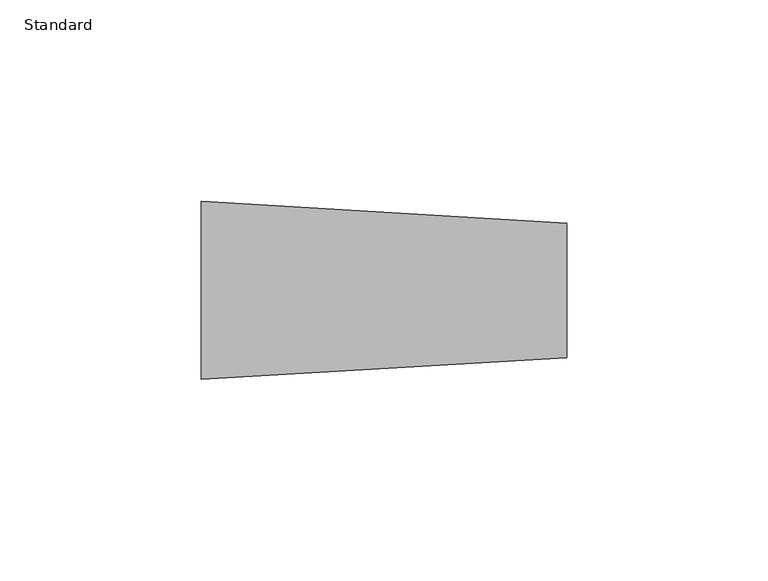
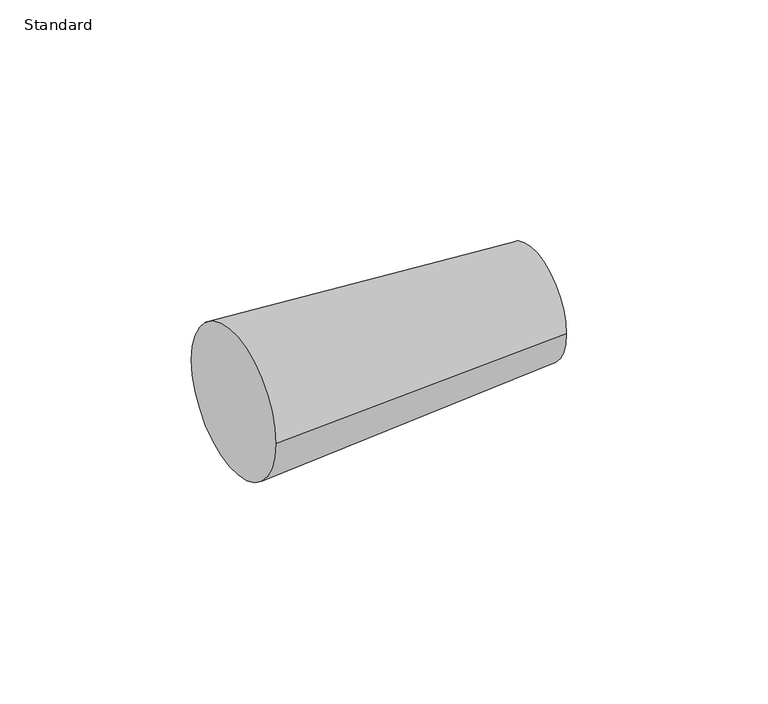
"""IFC4 building model written with IfcOpenShell, lengths in millimetres: pipe fitting geometry, Transformation - Générique : Standard."""

from ifc_helpers import new_model, si_unit, frame, origin, place, context, project, spatial, polyline, circle_curve, source, transform, mapped, element, save
from ifc_brep_helpers import plane_surface, revolved_surface, advanced_brep


def standard_a8f5f238(model_context):
    return source(origin(), model_context, "Body", "AdvancedBrep", [
        advanced_brep(
        [(90.6653125, 16.7, 0.0), (90.6653125, -16.7, 0.0), (0.0, 22.0589844, 0.0), (0.0, -22.0589844, 0.0)],
        [
            (0, 1, circle_curve(frame((90.6653125, 0.0, 0.0), z_axis=(1.0, 0.0, 0.0), x_axis=(0.0, -1.0, 0.0)), 16.7)),
            (1, 0, circle_curve(frame((90.6653125, 0.0, 0.0), z_axis=(1.0, 0.0, 0.0), x_axis=(0.0, 1.0, 0.0)), 16.7)),
            (2, 3, circle_curve(frame((0.0, 0.0, 0.0), z_axis=(-1.0, 0.0, 0.0), x_axis=(0.0, 1.0, 0.0)), 22.0589844)),
            (3, 2, circle_curve(frame((0.0, 0.0, 0.0), z_axis=(-1.0, 0.0, 0.0), x_axis=(0.0, -1.0, 0.0)), 22.0589844)),
            (2, 0),
            (1, 3),
        ],
        [
            plane_surface(frame((90.6653125, 0.0, 0.0), z_axis=(1.0, 0.0, 0.0), x_axis=(0.0, 0.0, -1.0))),
            plane_surface(frame((0.0, 0.0, 0.0), z_axis=(-1.0, 0.0, 0.0), x_axis=(0.0, 0.0, -1.0))),
            revolved_surface(polyline([(90.66531250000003, 16.700000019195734, 0.0), (0.0, 22.0589844, 0.0)]), (373.2021913, 0.0, 0.0), (-1.0, 0.0, 0.0)),
            revolved_surface(polyline([(90.66531250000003, -16.700000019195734, 0.0), (0.0, -22.0589844, 0.0)]), (373.2021913, 0.0, 0.0), (-1.0, 0.0, 0.0)),
        ],
        [
            (0, [[1, 2]]),
            (1, [[3, 4]]),
            (2, [[5, -2, 6, -3]]),
            (3, [[-6, -1, -5, -4]]),
        ],
    ),
    ])


if __name__ == "__main__":
    model = new_model("IFC4")
    model_context = context("Model", 3, world=origin())
    ifc_project = project(units=[si_unit("LENGTHUNIT", "METRE", prefix="MILLI")], contexts=[model_context])
    site = spatial("IfcSite", under=ifc_project)
    building = spatial("IfcBuilding", under=site)
    placement = place(None, origin())
    standard_shape = standard_a8f5f238(model_context)
    element("IfcPipeFitting", 1, ObjectType="Transformation - Générique : Standard", at=placement, inside=building, context=model_context, shape_type="MappedRepresentation", body=[
        mapped(standard_shape, transform((0.0, 0.0, 0.0), x_axis=(1.0, 0.0, 0.0), y_axis=(0.0, 1.0, 0.0), z_axis=(0.0, 0.0, 1.0))),
    ])
    save(model, "model.ifc")
